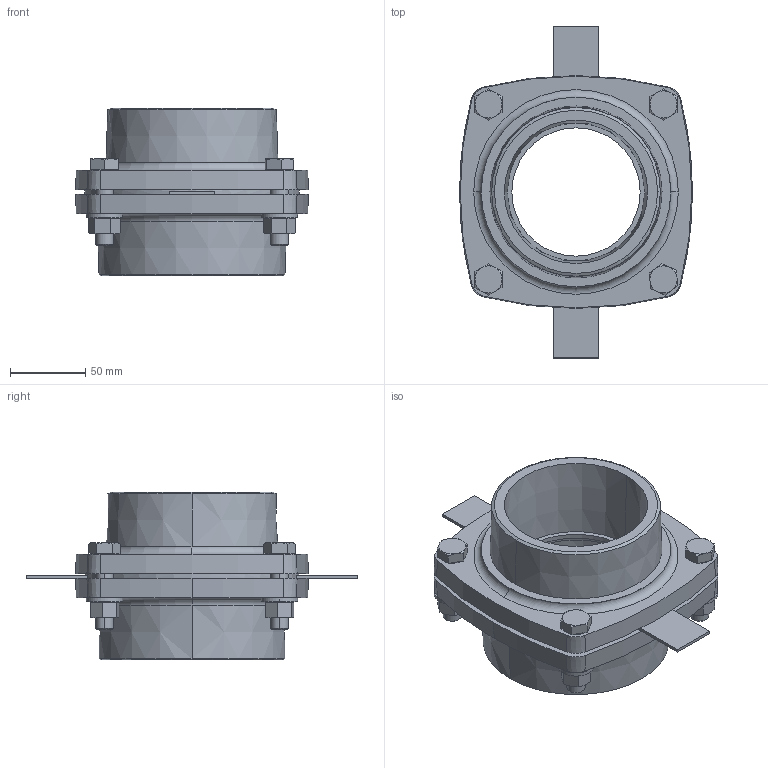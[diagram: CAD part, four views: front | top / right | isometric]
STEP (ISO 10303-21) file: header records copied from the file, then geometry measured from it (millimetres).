
FILE_DESCRIPTION (( 'STEP AP214' ), '1' );
FILE_NAME ('KP_F16-110MF.step', '2012-09-24T15:01:22', ( '' ), ( '' ), 'SwSTEP 2.0', 'SolidWorks 2012', '' );
FILE_SCHEMA (( 'AUTOMOTIVE_DESIGN' ));
Length unit declared in the file: millimetre
Products named in the file (1): KP_F16-110MF
Bounding box: 154.3 x 220 x 111 mm (x, y, z)
Volume: 696938.6 mm3; surface area: 184863.9 mm2
Topology: 15 solids, 15 shells, 371 faces, 804 edges, 470 vertices
Faces by surface type: cone 142, plane 141, cylinder 76, torus 12
Entity records: 14673 total; most frequent: CARTESIAN_POINT 2206, DIRECTION 1826, ORIENTED_EDGE 1608, EDGE_CURVE 804, AXIS2_PLACEMENT_3D 746, VERTEX_POINT 470, EDGE_LOOP 416, UNCERTAINTY_MEASURE_WITH_UNIT 388
